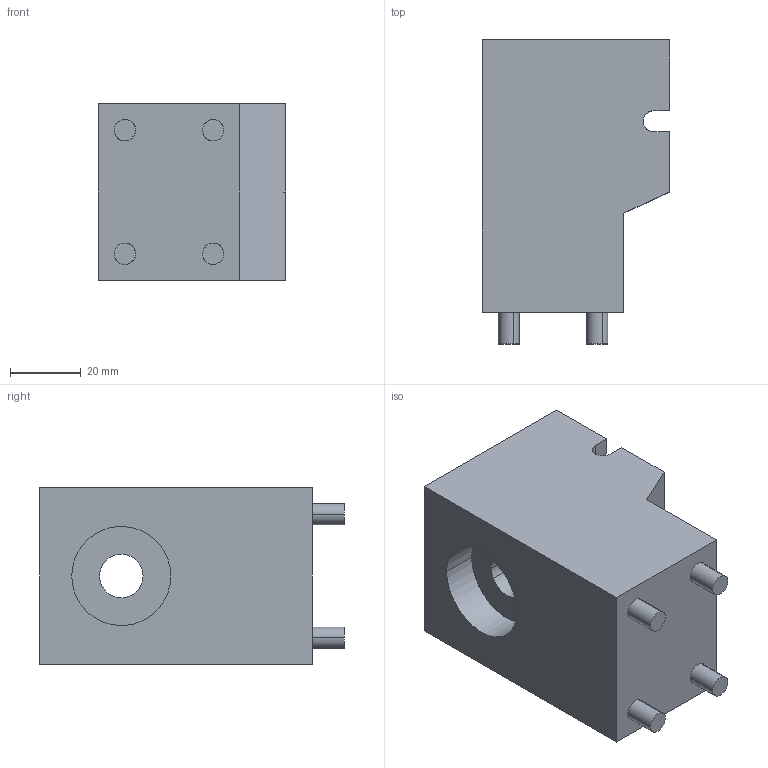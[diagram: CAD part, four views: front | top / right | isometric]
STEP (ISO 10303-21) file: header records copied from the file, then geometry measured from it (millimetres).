
FILE_DESCRIPTION(('STEP AP214'),'1');
FILE_NAME('EGT187_1720310_RD40_K40_HU.CATPart.stp','2015-09-14T13:11:50',('3D-Tool'),(' '),'Spatial InterOp 3D',' ',' ');
FILE_SCHEMA(('automotive_design'));
Length unit declared in the file: millimetre
Products named in the file (5): EGT187_1720310_RD40_K40_HU|EGT187_RD40_K40_HU|Bohrbearbeitung; 1; 2; 3; 4
Bounding box: 53 x 86 x 50 mm (x, y, z)
Volume: 154269.6 mm3; surface area: 37334.1 mm2
Topology: 5 solids, 5 shells, 112 faces, 277 edges, 184 vertices
Faces by surface type: cylinder 80, plane 32
Entity records: 4497 total; most frequent: DIRECTION 665, CARTESIAN_POINT 646, ORIENTED_EDGE 554, EDGE_CURVE 277, AXIS2_PLACEMENT_3D 275, VERTEX_POINT 184, CIRCLE 158, EDGE_LOOP 131
